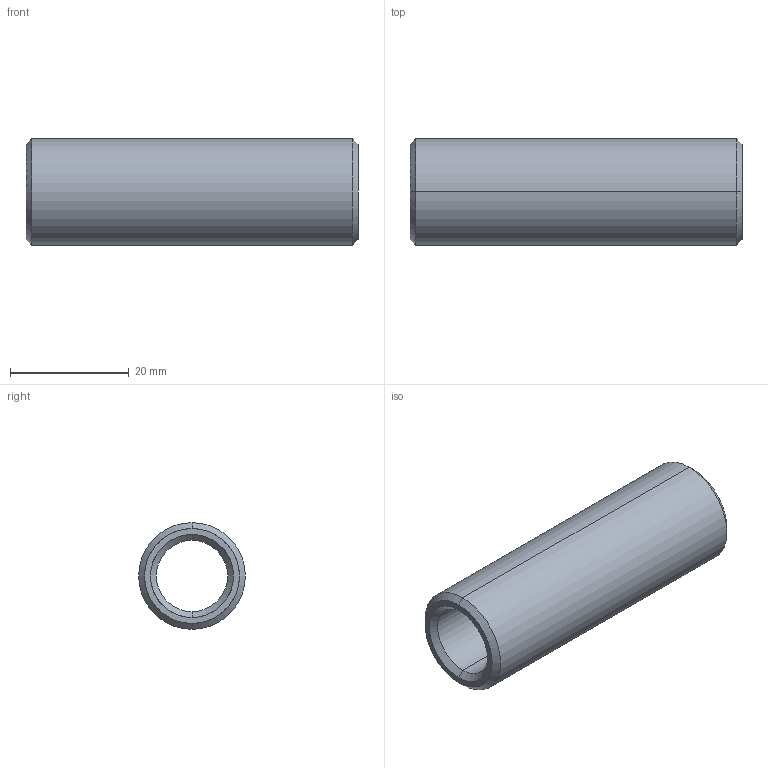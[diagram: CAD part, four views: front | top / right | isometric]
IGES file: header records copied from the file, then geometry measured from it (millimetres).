
Start section: START RECORD GO HERE.
Global section: file name: 352-12X56.igs; native system: DASSAULT SYSTEMES CATIA V5 R20 - www.3ds.com; preprocessor: CATIA Version 5 Release 20 ; author: Utente; organization: NB04-ASUS; date: 20210410.112238; units: millimetre
Bounding box: 56 x 18 x 18 mm (x, y, z)
Surface area: 5455.2 mm2 (no closed solid volume)
Topology: 0 solids, 0 shells, 14 faces, 88 edges, 88 vertices
Faces by surface type: revolution 12, plane 2
